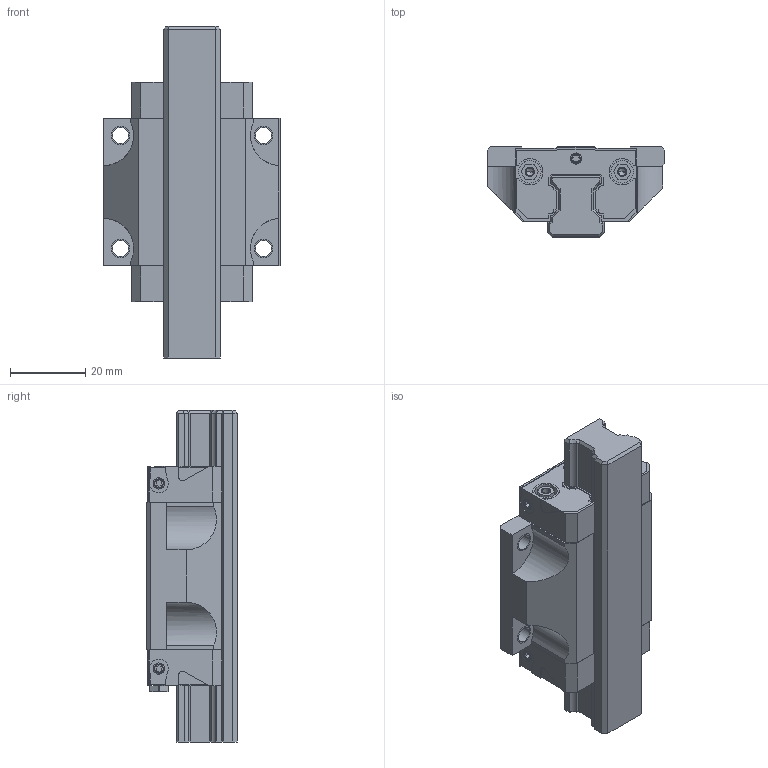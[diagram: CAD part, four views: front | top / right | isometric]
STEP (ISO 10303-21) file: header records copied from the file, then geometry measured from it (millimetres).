
FILE_DESCRIPTION((''),'2;1');
FILE_NAME('KWD_015_FNS_CS__ASM','2021-10-13T04:34:35',('ac91sw'),(''),'CREO PARAMETRIC BY PTC INC, 2020044','CREO PARAMETRIC BY PTC INC, 2020044','');
FILE_SCHEMA(('AUTOMOTIVE_DESIGN { 1 0 10303 214 1 1 1 1 }'));
Length unit declared in the file: millimetre
Products named in the file (7): KWD_015_FNS_CS__SKEL; R200110131; R200110102_Z; R343708901_Z; KWD_015_FNS_CS__PSF; R341702909_Z; KWD_015_FNS_CS__ASM
Assembly tree (11 placements, depth 2):
  KWD_015_FNS_CS__ASM
    KWD_015_FNS_CS__SKEL
    R200110131
    R200110102_Z  x2
    R343708901_Z  x5
    KWD_015_FNS_CS__PSF
    R341702909_Z
Bounding box: 47 x 24 x 88.2 mm (x, y, z)
Volume: 45107.2 mm3; surface area: 21805.2 mm2
Topology: 10 solids, 28 shells, 539 faces, 1402 edges, 903 vertices
Faces by surface type: plane 313, cylinder 166, cone 60
Entity records: 17487 total; most frequent: CARTESIAN_POINT 2101, DIRECTION 1856, ORIENTED_EDGE 1720, EDGE_CURVE 884, PROPERTY_DEFINITION 824, REPRESENTATION 815, PROPERTY_DEFINITION_REPRESENTATION 815, DESCRIPTIVE_REPRESENTATION_ITEM 758
